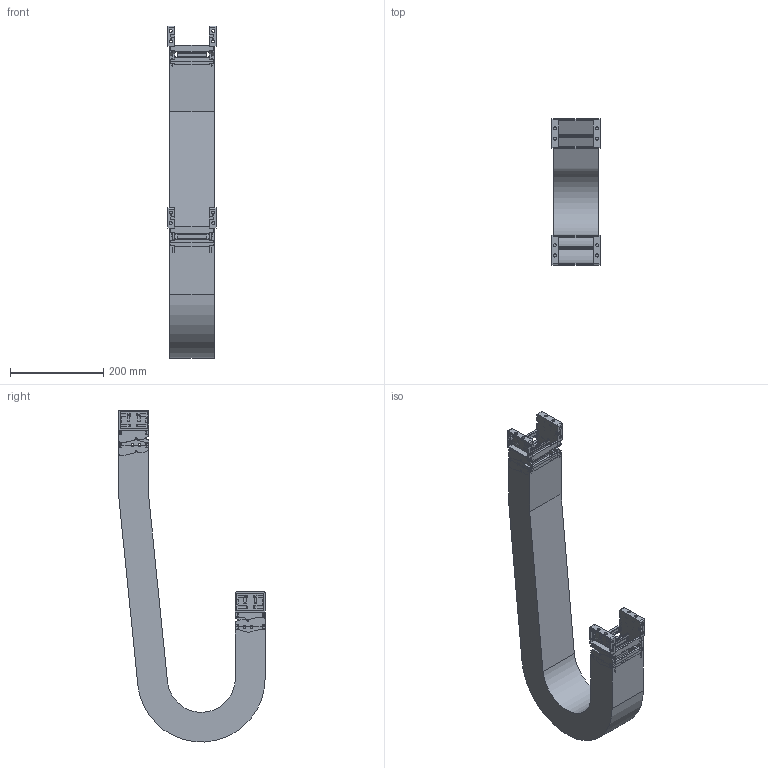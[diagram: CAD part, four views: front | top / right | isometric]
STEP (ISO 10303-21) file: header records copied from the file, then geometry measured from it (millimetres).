
FILE_DESCRIPTION((''),'2;1');
FILE_NAME('KST-50075-100_ASM','2017-12-08T',('KUNI004K'),(''),'PRO/ENGINEER BY PARAMETRIC TECHNOLOGY CORPORATION, 2015200','PRO/ENGINEER BY PARAMETRIC TECHNOLOGY CORPORATION, 2015200','');
FILE_SCHEMA(('AUTOMOTIVE_DESIGN { 1 0 10303 214 1 1 1 1 }'));
Length unit declared in the file: millimetre
Products named in the file (13): 50FBR; 50FBL; 40075C; KST50FB_W075_ASM; KST50100R; KST50100L; 40075H; KST50075-100_1_ASM; KST50075_R100_BODY; 50MBR; 50MBL; KST50MB_W075_ASM; KST-50075-100_ASM
Assembly tree (19 placements, depth 3):
  KST-50075-100_ASM
    KST50FB_W075_ASM
      50FBR
      50FBL
      40075C  x2
    KST50075-100_1_ASM  x2
      KST50100R
      KST50100L
      40075C
      40075H
    KST50075_R100_BODY
    KST50MB_W075_ASM
      50MBR
      50MBL
      40075C  x2
Bounding box: 103 x 314 x 712.38 mm (x, y, z)
Volume: 2375738.2 mm3; surface area: 818178.3 mm2
Topology: 21 solids, 21 shells, 2744 faces, 7470 edges, 4796 vertices
Faces by surface type: plane 1414, cylinder 954, bspline 308, torus 68
Entity records: 68230 total; most frequent: CARTESIAN_POINT 14169, ORIENTED_EDGE 7256, DIRECTION 6572, PRESENTATION_STYLE_ASSIGNMENT 4952, STYLED_ITEM 4952, CURVE_STYLE 3628, EDGE_CURVE 3628, VERTEX_POINT 2344
